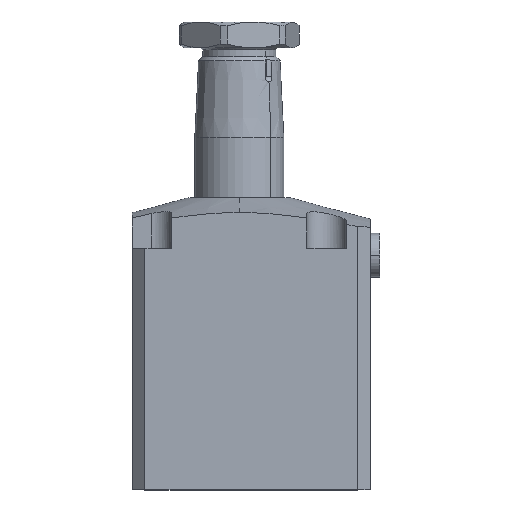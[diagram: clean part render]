
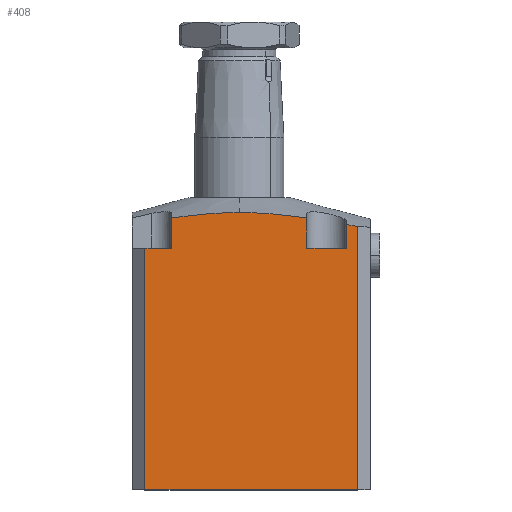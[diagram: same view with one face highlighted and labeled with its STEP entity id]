
A CAD part, top view. The second image highlights one B-rep face of the part: STEP entity #408.
In plain terms, the highlighted planar face has unit normal (0, 0, 1).
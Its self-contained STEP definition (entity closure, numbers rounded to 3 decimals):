
#143=B_SPLINE_CURVE_WITH_KNOTS('',3,(#4620,#4621,#4622,#4623),
 .UNSPECIFIED.,.F.,.F.,(4,4),(0.,1.),.UNSPECIFIED.);
#144=B_SPLINE_CURVE_WITH_KNOTS('',3,(#4660,#4661,#4662,#4663),
 .UNSPECIFIED.,.F.,.F.,(4,4),(0.,1.),.UNSPECIFIED.);
#145=B_SPLINE_CURVE_WITH_KNOTS('',3,(#4671,#4672,#4673,#4674),
 .UNSPECIFIED.,.F.,.F.,(4,4),(0.,1.),.UNSPECIFIED.);
#247=PLANE('',#3007);
#408=ADVANCED_FACE('',(#630),#247,.F.);
#630=FACE_OUTER_BOUND('',#798,.T.);
#798=EDGE_LOOP('',(#1318,#1319,#1320,#1321,#1322,#1323,#1324,#1325,#1326,
#1327,#1328));
#1318=ORIENTED_EDGE('',*,*,#2303,.F.);
#1319=ORIENTED_EDGE('',*,*,#2304,.F.);
#1320=ORIENTED_EDGE('',*,*,#2305,.T.);
#1321=ORIENTED_EDGE('',*,*,#2285,.T.);
#1322=ORIENTED_EDGE('',*,*,#2306,.T.);
#1323=ORIENTED_EDGE('',*,*,#2307,.T.);
#1324=ORIENTED_EDGE('',*,*,#2308,.F.);
#1325=ORIENTED_EDGE('',*,*,#2309,.T.);
#1326=ORIENTED_EDGE('',*,*,#2310,.T.);
#1327=ORIENTED_EDGE('',*,*,#2311,.T.);
#1328=ORIENTED_EDGE('',*,*,#2282,.T.);
#2002=VERTEX_POINT('',#4619);
#2003=VERTEX_POINT('',#4624);
#2004=VERTEX_POINT('',#4628);
#2005=VERTEX_POINT('',#4630);
#2010=VERTEX_POINT('',#4654);
#2011=VERTEX_POINT('',#4656);
#2012=VERTEX_POINT('',#4659);
#2013=VERTEX_POINT('',#4664);
#2014=VERTEX_POINT('',#4666);
#2015=VERTEX_POINT('',#4668);
#2016=VERTEX_POINT('',#4670);
#2282=EDGE_CURVE('',#2003,#2002,#143,.T.);
#2285=EDGE_CURVE('',#2005,#2004,#2586,.T.);
#2303=EDGE_CURVE('',#2010,#2002,#2598,.T.);
#2304=EDGE_CURVE('',#2011,#2010,#2599,.T.);
#2305=EDGE_CURVE('',#2011,#2005,#2600,.T.);
#2306=EDGE_CURVE('',#2004,#2012,#2601,.T.);
#2307=EDGE_CURVE('',#2012,#2013,#144,.T.);
#2308=EDGE_CURVE('',#2014,#2013,#2602,.T.);
#2309=EDGE_CURVE('',#2014,#2015,#2603,.T.);
#2310=EDGE_CURVE('',#2015,#2016,#2604,.T.);
#2311=EDGE_CURVE('',#2016,#2003,#145,.T.);
#2586=LINE('',#4629,#2754);
#2598=LINE('',#4653,#2766);
#2599=LINE('',#4655,#2767);
#2600=LINE('',#4657,#2768);
#2601=LINE('',#4658,#2769);
#2602=LINE('',#4665,#2770);
#2603=LINE('',#4667,#2771);
#2604=LINE('',#4669,#2772);
#2754=VECTOR('',#3495,1.);
#2766=VECTOR('',#3521,1.);
#2767=VECTOR('',#3522,1.);
#2768=VECTOR('',#3523,1.);
#2769=VECTOR('',#3524,1.);
#2770=VECTOR('',#3525,1.);
#2771=VECTOR('',#3526,1.);
#2772=VECTOR('',#3527,1.);
#3007=AXIS2_PLACEMENT_3D('',#4675,#3528,#3529);
#3495=DIRECTION('',(1.,0.,0.));
#3521=DIRECTION('',(0.,1.,0.));
#3522=DIRECTION('',(1.,0.,0.));
#3523=DIRECTION('',(0.,-1.,0.));
#3524=DIRECTION('',(0.,1.,0.));
#3525=DIRECTION('',(0.,1.,0.));
#3526=DIRECTION('',(-1.,0.,0.));
#3527=DIRECTION('',(0.,1.,0.));
#3528=DIRECTION('',(0.,0.,-1.));
#3529=DIRECTION('',(-1.,0.,0.));
#4619=CARTESIAN_POINT('',(-34.,136.801,54.));
#4620=CARTESIAN_POINT('',(0.,139.43,54.));
#4621=CARTESIAN_POINT('',(-11.401,139.43,54.));
#4622=CARTESIAN_POINT('',(-22.723,138.411,54.));
#4623=CARTESIAN_POINT('',(-34.,136.801,54.));
#4624=CARTESIAN_POINT('',(0.,139.43,54.));
#4628=CARTESIAN_POINT('',(59.5,0.,54.));
#4629=CARTESIAN_POINT('',(-54.,0.,54.));
#4630=CARTESIAN_POINT('',(-47.5,0.,54.));
#4653=CARTESIAN_POINT('',(-34.,93.216,54.));
#4654=CARTESIAN_POINT('',(-34.,121.5,54.));
#4655=CARTESIAN_POINT('',(-34.,121.5,54.));
#4656=CARTESIAN_POINT('',(-47.5,121.5,54.));
#4657=CARTESIAN_POINT('',(-47.5,147.,54.));
#4658=CARTESIAN_POINT('',(59.5,147.,54.));
#4659=CARTESIAN_POINT('',(59.5,132.37,54.));
#4660=CARTESIAN_POINT('',(59.5,132.37,54.));
#4661=CARTESIAN_POINT('',(57.668,132.733,54.));
#4662=CARTESIAN_POINT('',(55.835,133.089,54.));
#4663=CARTESIAN_POINT('',(54.,133.437,54.));
#4664=CARTESIAN_POINT('',(54.,133.437,54.));
#4665=CARTESIAN_POINT('',(54.,121.5,54.));
#4666=CARTESIAN_POINT('',(54.,121.5,54.));
#4667=CARTESIAN_POINT('',(54.,121.5,54.));
#4668=CARTESIAN_POINT('',(34.,121.5,54.));
#4669=CARTESIAN_POINT('',(34.,121.5,54.));
#4670=CARTESIAN_POINT('',(34.,136.801,54.));
#4671=CARTESIAN_POINT('',(34.,136.801,54.));
#4672=CARTESIAN_POINT('',(22.723,138.411,54.));
#4673=CARTESIAN_POINT('',(11.401,139.43,54.));
#4674=CARTESIAN_POINT('',(0.,139.43,54.));
#4675=CARTESIAN_POINT('',(-54.,147.,54.));
